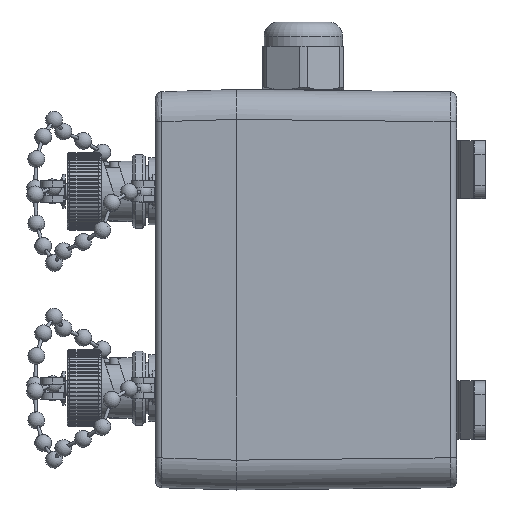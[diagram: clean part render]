
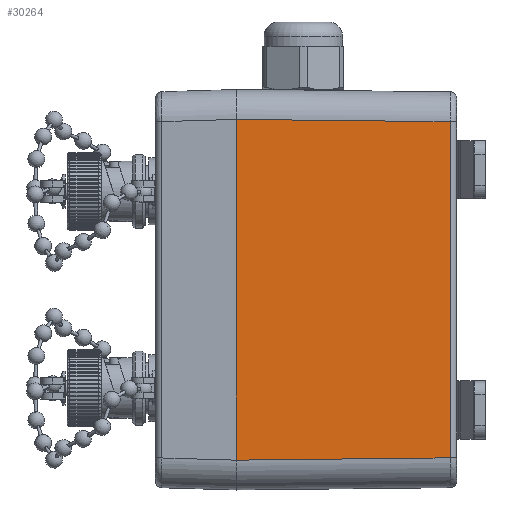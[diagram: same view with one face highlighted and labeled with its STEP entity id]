
A CAD part, left-side view. The second image highlights one B-rep face of the part: STEP entity #30264.
In plain terms, the highlighted planar face has unit normal (-1, -0.012, 0).
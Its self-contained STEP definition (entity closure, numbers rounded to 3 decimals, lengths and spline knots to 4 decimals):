
#1801=LINE('',#42706,#3549);
#3257=LINE('',#57340,#5005);
#3258=LINE('',#57343,#5006);
#3259=LINE('',#57344,#5007);
#3549=VECTOR('',#34430,0.3937);
#5005=VECTOR('',#40316,0.3937);
#5006=VECTOR('',#40319,0.3937);
#5007=VECTOR('',#40320,0.3937);
#5898=PLANE('',#33041);
#8874=FACE_OUTER_BOUND('',#10550,.T.);
#10550=EDGE_LOOP('',(#27567,#27568,#27569,#27570));
#12557=VERTEX_POINT('',#42703);
#12558=VERTEX_POINT('',#42705);
#14869=VERTEX_POINT('',#57338);
#14870=VERTEX_POINT('',#57342);
#15674=EDGE_CURVE('',#12557,#12558,#1801,.T.);
#19173=EDGE_CURVE('',#12558,#14869,#3257,.T.);
#19174=EDGE_CURVE('',#14869,#14870,#3258,.T.);
#19175=EDGE_CURVE('',#14870,#12557,#3259,.T.);
#27567=ORIENTED_EDGE('',*,*,#19174,.F.);
#27568=ORIENTED_EDGE('',*,*,#19173,.F.);
#27569=ORIENTED_EDGE('',*,*,#15674,.F.);
#27570=ORIENTED_EDGE('',*,*,#19175,.F.);
#30264=ADVANCED_FACE('',(#8874),#5898,.F.);
#33041=AXIS2_PLACEMENT_3D('',#57341,#40317,#40318);
#34430=DIRECTION('',(0.,0.,1.));
#40316=DIRECTION('',(0.012,-1.,-0.011));
#40317=DIRECTION('center_axis',(1.,0.012,0.));
#40318=DIRECTION('ref_axis',(0.,0.,
-1.));
#40319=DIRECTION('',(0.,0.,-1.));
#40320=DIRECTION('',(-0.012,1.,-0.011));
#42703=CARTESIAN_POINT('',(-2.2916,1.6681,-1.149));
#42705=CARTESIAN_POINT('',(-2.2916,1.6681,1.361));
#42706=CARTESIAN_POINT('',(-2.2916,1.6681,-1.369));
#57338=CARTESIAN_POINT('',(-2.2722,0.0925,1.3441));
#57340=CARTESIAN_POINT('',(-2.2713,0.0191,1.3433));
#57341=CARTESIAN_POINT('Origin',(-2.2716,0.0431,1.5635));
#57342=CARTESIAN_POINT('',(-2.2722,0.0925,-1.132));
#57343=CARTESIAN_POINT('',(-2.2722,0.0925,0.8348));
#57344=CARTESIAN_POINT('',(-2.2715,0.0298,-1.1313));
